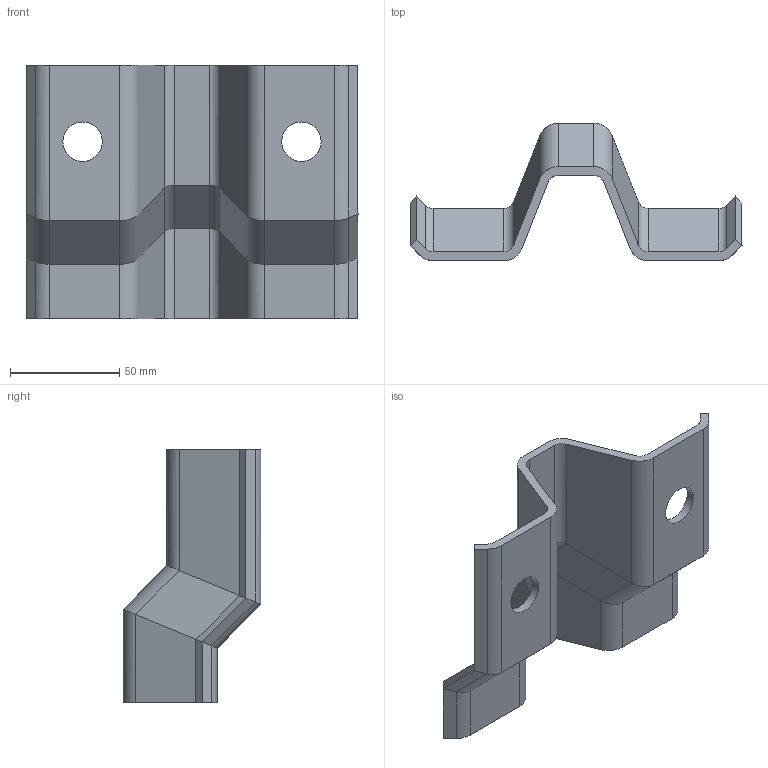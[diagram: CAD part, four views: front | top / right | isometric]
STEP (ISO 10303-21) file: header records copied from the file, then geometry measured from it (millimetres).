
FILE_DESCRIPTION(/* description */ (''),/* implementation_level */ '2;1');
FILE_NAME(/* name */ 'C150.stp',/* time_stamp */ '2023-07-03T10:42:03+02:00',/* author */ ('woriedl'),/* organization */ (''),/* preprocessor_version */ 'ST-DEVELOPER v19.2',/* originating_system */ 'AutoCAD Mechanical',/* authorisation */ '');
FILE_SCHEMA (('AUTOMOTIVE_DESIGN { 1 0 10303 214 3 1 1 }'));
Length unit declared in the file: centimetre
Products named in the file (1): Product
Bounding box: 151.72 x 63 x 116 mm (x, y, z)
Volume: 98298.5 mm3; surface area: 52210.5 mm2
Topology: 1 solids, 1 shells, 88 faces, 202 edges, 116 vertices
Faces by surface type: plane 50, cylinder 38
Full cylindrical faces by diameter (mm): 18 x2
Entity records: 2441 total; most frequent: DIRECTION 432, CARTESIAN_POINT 407, ORIENTED_EDGE 404, EDGE_CURVE 202, LINE 150, VECTOR 150, AXIS2_PLACEMENT_3D 141, VERTEX_POINT 116
